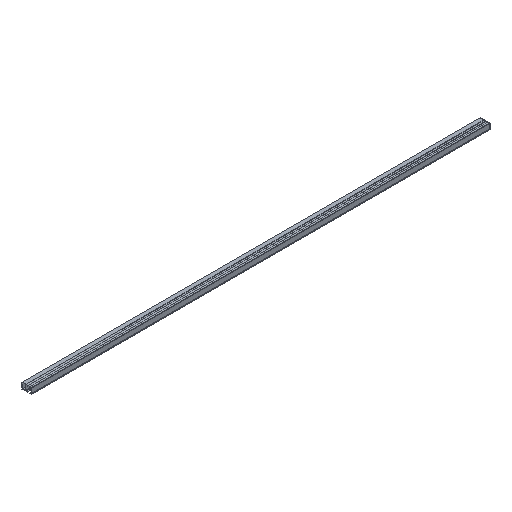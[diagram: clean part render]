
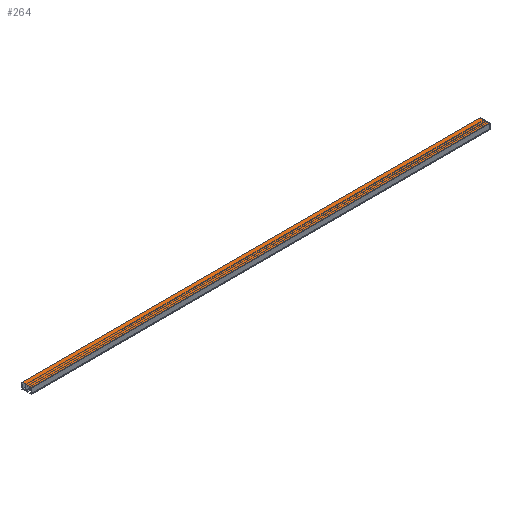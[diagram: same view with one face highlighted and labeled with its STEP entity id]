
A CAD part, isometric view. The second image highlights one B-rep face of the part: STEP entity #264.
In plain terms, the highlighted planar face has unit normal (0, 0, 1).
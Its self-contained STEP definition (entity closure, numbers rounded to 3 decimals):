
#264=ADVANCED_FACE('',(#538),#539,.T.);
#538=FACE_OUTER_BOUND('',#815,.T.);
#539=PLANE('',#816);
#815=EDGE_LOOP('',(#1553,#1554,#1555,#1556));
#816=AXIS2_PLACEMENT_3D('',#1557,#1558,#1559);
#1553=ORIENTED_EDGE('',*,*,#1952,.T.);
#1554=ORIENTED_EDGE('',*,*,#1990,.T.);
#1555=ORIENTED_EDGE('',*,*,#1992,.F.);
#1556=ORIENTED_EDGE('',*,*,#1993,.F.);
#1557=CARTESIAN_POINT('',(2500.0,-15.5,0.));
#1558=DIRECTION('',(0.0,0.,1.0));
#1559=DIRECTION('',(0.0,1.0,0.));
#1952=EDGE_CURVE('',#2419,#2417,#2420,.T.);
#1990=EDGE_CURVE('',#2417,#2472,#2474,.T.);
#1992=EDGE_CURVE('',#2476,#2472,#2477,.T.);
#1993=EDGE_CURVE('',#2419,#2476,#2478,.T.);
#2417=VERTEX_POINT('',#3065);
#2419=VERTEX_POINT('',#3068);
#2420=LINE('',#3069,#3070);
#2472=VERTEX_POINT('',#3147);
#2474=LINE('',#3150,#3151);
#2476=VERTEX_POINT('',#3153);
#2477=LINE('',#3154,#3155);
#2478=LINE('',#3156,#3157);
#3065=CARTESIAN_POINT('',(2500.0,36.0,0.));
#3068=CARTESIAN_POINT('',(2500.0,-15.5,0.));
#3069=CARTESIAN_POINT('',(2500.0,-15.5,0.));
#3070=VECTOR('',#3491,1.0);
#3147=CARTESIAN_POINT('',(0.0,36.0,0.));
#3150=CARTESIAN_POINT('',(2500.0,36.0,0.));
#3151=VECTOR('',#3518,1.0);
#3153=CARTESIAN_POINT('',(0.0,-15.5,0.));
#3154=CARTESIAN_POINT('',(0.0,-15.5,0.));
#3155=VECTOR('',#3519,1.0);
#3156=CARTESIAN_POINT('',(2500.0,-15.5,0.));
#3157=VECTOR('',#3520,1.0);
#3491=DIRECTION('',(0.0,1.0,0.));
#3518=DIRECTION('',(-1.0,0.0,0.0));
#3519=DIRECTION('',(0.0,1.0,0.));
#3520=DIRECTION('',(-1.0,0.0,0.0));
